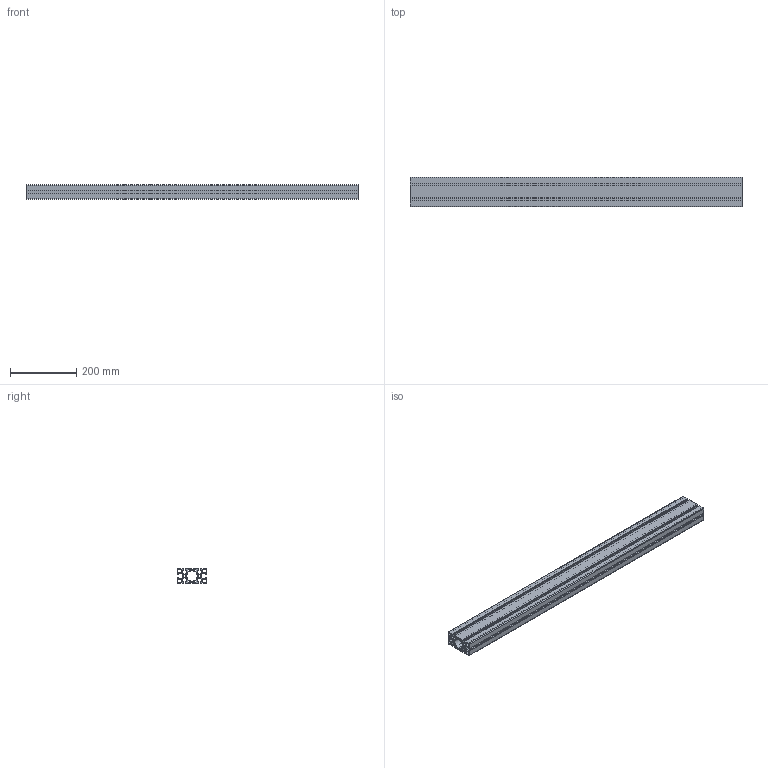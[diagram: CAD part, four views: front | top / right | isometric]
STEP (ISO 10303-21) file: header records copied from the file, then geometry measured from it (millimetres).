
FILE_DESCRIPTION (( 'STEP AP214' ), '1' );
FILE_NAME ('1.0123 45X90 vahva L 6m musta 1000mm.STEP', '2026-03-17T07:04:58', ( '' ), ( '' ), 'SwSTEP 2.0', 'SolidWorks 2025', '' );
FILE_SCHEMA (( 'AUTOMOTIVE_DESIGN' ));
Length unit declared in the file: millimetre
Products named in the file (1): 1.0123 45X90 vahva L 6m musta 1000mm
Bounding box: 1000 x 90 x 45 mm (x, y, z)
Volume: 1428494 mm3; surface area: 943211.9 mm2
Topology: 1 solids, 1 shells, 210 faces, 624 edges, 416 vertices
Faces by surface type: cylinder 114, plane 96
Entity records: 7175 total; most frequent: DIRECTION 1274, CARTESIAN_POINT 1251, ORIENTED_EDGE 1248, EDGE_CURVE 624, AXIS2_PLACEMENT_3D 439, VERTEX_POINT 416, LINE 396, VECTOR 396
